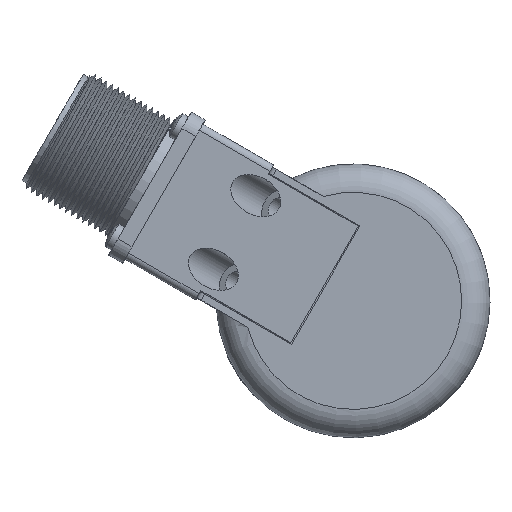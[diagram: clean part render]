
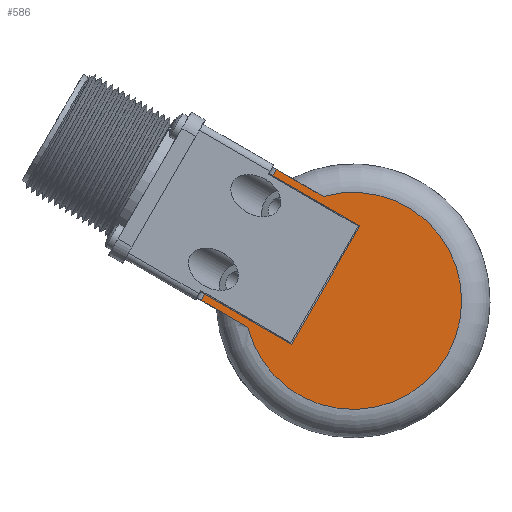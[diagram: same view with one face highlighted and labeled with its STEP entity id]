
A CAD part, left-side view. The second image highlights one B-rep face of the part: STEP entity #586.
In plain terms, the highlighted planar face has unit normal (-1, 0, 0).
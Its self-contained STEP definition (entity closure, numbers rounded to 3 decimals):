
#586 = ADVANCED_FACE( '', ( #1719 ), #1720, .T. );
#1719 = FACE_OUTER_BOUND( '', #3683, .T. );
#1720 = PLANE( '', #3684 );
#3683 = EDGE_LOOP( '', ( #16772, #16773, #16774, #16775, #16776, #16777, #16778, #16779 ) );
#3684 = AXIS2_PLACEMENT_3D( '', #16780, #16781, #16782 );
#16772 = ORIENTED_EDGE( '', *, *, #21160, .T. );
#16773 = ORIENTED_EDGE( '', *, *, #21161, .T. );
#16774 = ORIENTED_EDGE( '', *, *, #21162, .T. );
#16775 = ORIENTED_EDGE( '', *, *, #21163, .T. );
#16776 = ORIENTED_EDGE( '', *, *, #21164, .F. );
#16777 = ORIENTED_EDGE( '', *, *, #21165, .F. );
#16778 = ORIENTED_EDGE( '', *, *, #21166, .T. );
#16779 = ORIENTED_EDGE( '', *, *, #21167, .T. );
#16780 = CARTESIAN_POINT( '', ( -49.374, 10.615, 39.615 ) );
#16781 = DIRECTION( '', ( -1., 0., 0. ) );
#16782 = DIRECTION( '', ( 0., 0.5, -0.866 ) );
#21160 = EDGE_CURVE( '', #22907, #22908, #22909, .T. );
#21161 = EDGE_CURVE( '', #22908, #22910, #22911, .T. );
#21162 = EDGE_CURVE( '', #22910, #22912, #22913, .T. );
#21163 = EDGE_CURVE( '', #22912, #22914, #22915, .T. );
#21164 = EDGE_CURVE( '', #22916, #22914, #22917, .T. );
#21165 = EDGE_CURVE( '', #22918, #22916, #22919, .T. );
#21166 = EDGE_CURVE( '', #22918, #22920, #22921, .T. );
#21167 = EDGE_CURVE( '', #22920, #22907, #22922, .T. );
#22907 = VERTEX_POINT( '', #25514 );
#22908 = VERTEX_POINT( '', #25515 );
#22909 = CIRCLE( '', #25516, 23. );
#22910 = VERTEX_POINT( '', #25517 );
#22911 = LINE( '', #25518, #25519 );
#22912 = VERTEX_POINT( '', #25520 );
#22913 = LINE( '', #25521, #25522 );
#22914 = VERTEX_POINT( '', #25523 );
#22915 = LINE( '', #25524, #25525 );
#22916 = VERTEX_POINT( '', #25526 );
#22917 = LINE( '', #25527, #25528 );
#22918 = VERTEX_POINT( '', #25529 );
#22919 = LINE( '', #25530, #25531 );
#22920 = VERTEX_POINT( '', #25532 );
#22921 = LINE( '', #25533, #25534 );
#22922 = LINE( '', #25535, #25536 );
#25514 = CARTESIAN_POINT( '', ( -49.374, 22.309, -5.595 ) );
#25515 = CARTESIAN_POINT( '', ( -49.374, 6.309, 22.118 ) );
#25516 = AXIS2_PLACEMENT_3D( '', #32582, #32583, #32584 );
#25517 = CARTESIAN_POINT( '', ( -49.374, 16.249, 27.856 ) );
#25518 = CARTESIAN_POINT( '', ( -49.374, 17.115, 28.356 ) );
#25519 = VECTOR( '', #32585, 1000. );
#25520 = CARTESIAN_POINT( '', ( -49.374, 16.999, 26.557 ) );
#25521 = CARTESIAN_POINT( '', ( -49.374, 16.999, 26.557 ) );
#25522 = VECTOR( '', #32586, 1000. );
#25523 = CARTESIAN_POINT( '', ( -49.374, -1.448, 15.907 ) );
#25524 = CARTESIAN_POINT( '', ( -49.374, 17.865, 27.057 ) );
#25525 = VECTOR( '', #32587, 1000. );
#25526 = CARTESIAN_POINT( '', ( -49.374, 13.052, -9.207 ) );
#25527 = CARTESIAN_POINT( '', ( -49.374, 13.052, -9.207 ) );
#25528 = VECTOR( '', #32588, 1000. );
#25529 = CARTESIAN_POINT( '', ( -49.374, 31.499, 1.443 ) );
#25530 = CARTESIAN_POINT( '', ( -49.374, 32.365, 1.943 ) );
#25531 = VECTOR( '', #32589, 1000. );
#25532 = CARTESIAN_POINT( '', ( -49.374, 32.249, 0.144 ) );
#25533 = CARTESIAN_POINT( '', ( -49.374, 32.249, 0.144 ) );
#25534 = VECTOR( '', #32590, 1000. );
#25535 = CARTESIAN_POINT( '', ( -49.374, 28.946, -1.763 ) );
#25536 = VECTOR( '', #32591, 1000. );
#32582 = CARTESIAN_POINT( '', ( -49.374, 0., 0. ) );
#32583 = DIRECTION( '', ( -1., 0., 0. ) );
#32584 = DIRECTION( '', ( 0., 0.5, -0.866 ) );
#32585 = DIRECTION( '', ( 0., 0.866, 0.5 ) );
#32586 = DIRECTION( '', ( 0., 0.5, -0.866 ) );
#32587 = DIRECTION( '', ( 0., -0.866, -0.5 ) );
#32588 = DIRECTION( '', ( 0., -0.5, 0.866 ) );
#32589 = DIRECTION( '', ( 0., -0.866, -0.5 ) );
#32590 = DIRECTION( '', ( 0., 0.5, -0.866 ) );
#32591 = DIRECTION( '', ( 0., -0.866, -0.5 ) );
